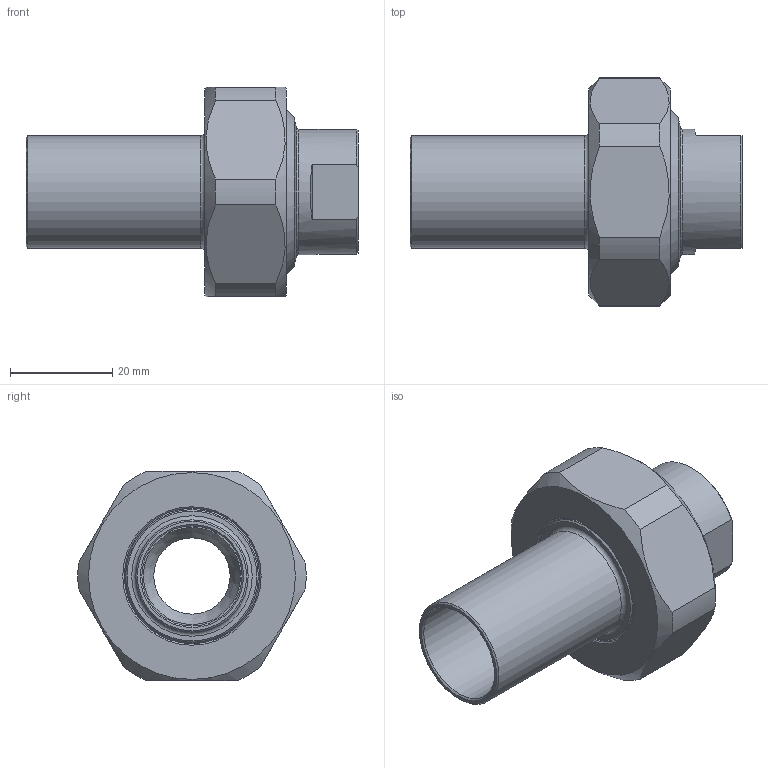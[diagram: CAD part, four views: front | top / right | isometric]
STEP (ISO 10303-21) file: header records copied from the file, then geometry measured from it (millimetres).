
FILE_DESCRIPTION(/* description */ (''),/* implementation_level */ '2;1');
FILE_NAME(/* name */ 'C:\Users\cad\Desktop\Zeichnungen neu von Ralph\Ganze Kupplungen\3D_Kupplung-R666-PE-G\3D_R666-PE-G-22-DN25-DN10_1711309354.stp',/* time_stamp */ '2021-07-16T08:00:54+02:00',/* author */ ('cad'),/* organization */ (''),/* preprocessor_version */ 'ST-DEVELOPER v18.1',/* originating_system */ 'Autodesk Inventor 2022',/* authorisation */ '');
FILE_SCHEMA (('AUTOMOTIVE_DESIGN { 1 0 10303 214 3 1 1 }'));
Length unit declared in the file: millimetre
Products named in the file (4): 3D_R666-PE-G-22-DN25-DN10_1711309354; 3D_R666-M-DN25_17113930; 3D_R666-G-DN10-DN25_17113525; 3D_R666-PE-22-DN25_17113474
Assembly tree (3 placements, depth 2):
  3D_R666-PE-G-22-DN25-DN10_1711309354
    3D_R666-M-DN25_17113930
    3D_R666-G-DN10-DN25_17113525
    3D_R666-PE-22-DN25_17113474
Bounding box: 65 x 44.68 x 41 mm (x, y, z)
Volume: 25926.4 mm3; surface area: 15253.8 mm2
Topology: 3 solids, 3 shells, 56 faces, 138 edges, 91 vertices
Faces by surface type: plane 19, cone 18, cylinder 15, torus 4
Full cylindrical faces by diameter (mm): 14.95 x1, 19.6 x1, 22 x1, 24.5 x1, 26 x1, 26.5 x1, 29.5 x1, 30.291 x1, 33.1 x1
Entity records: 1834 total; most frequent: DIRECTION 325, CARTESIAN_POINT 324, ORIENTED_EDGE 276, AXIS2_PLACEMENT_3D 140, EDGE_CURVE 138, VERTEX_POINT 91, CIRCLE 75, EDGE_LOOP 65
